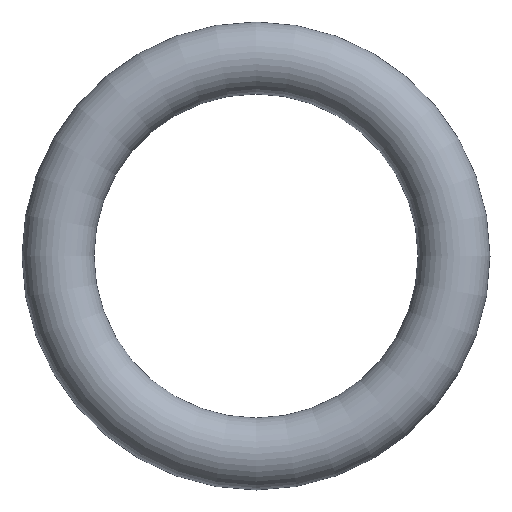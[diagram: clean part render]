
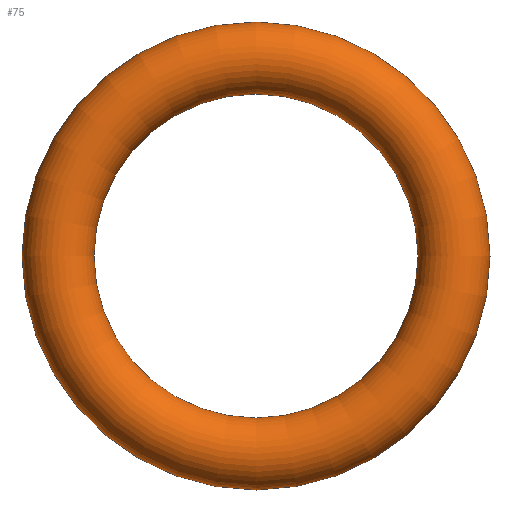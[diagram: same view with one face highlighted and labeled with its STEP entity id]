
A CAD part, front view. The second image highlights one B-rep face of the part: STEP entity #75.
In plain terms, the highlighted toroidal (fillet/blend) face has major radius 2.75 mm and minor radius 0.5 mm.
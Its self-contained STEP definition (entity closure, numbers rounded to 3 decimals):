
#75 = ADVANCED_FACE( '', ( #77 ), #78, .T. );
#77 = FACE_BOUND( '', #79, .T. );
#78 = TOROIDAL_SURFACE( '', #80, 2.75, 0.5 );
#79 = VERTEX_LOOP( '', #81 );
#80 = AXIS2_PLACEMENT_3D( '', #82, #83, #84 );
#81 = VERTEX_POINT( '', #85 );
#82 = CARTESIAN_POINT( '', ( 0., 0., 0. ) );
#83 = DIRECTION( '', ( 0., -1., 0. ) );
#84 = DIRECTION( '', ( 0., 0., -1. ) );
#85 = CARTESIAN_POINT( '', ( 0., 0., -3.25 ) );
